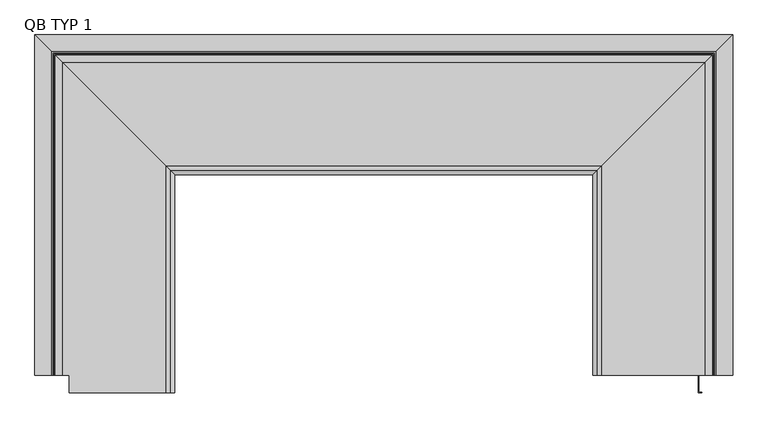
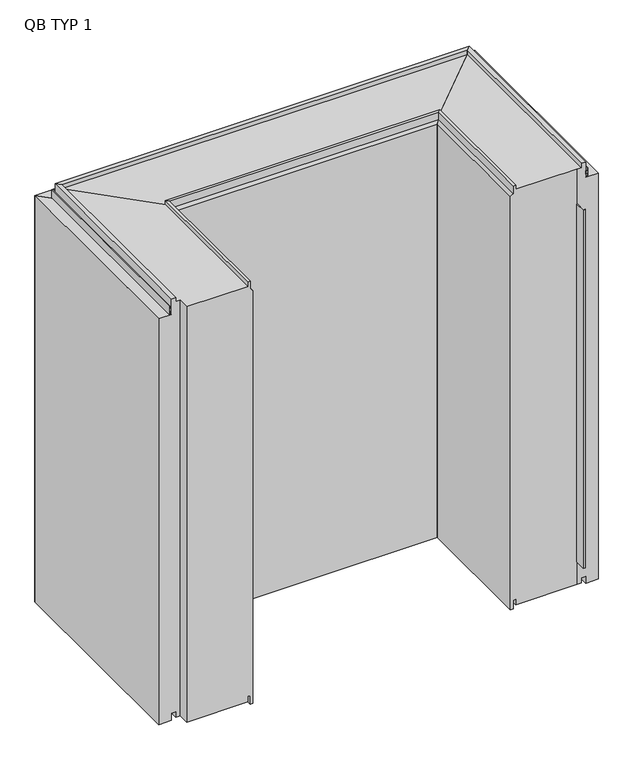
"""IFC4 building model written with IfcOpenShell, lengths in millimetres: plate geometry, TR_C_H_QBISS_U_Corner_Tr : QB TYP 1."""

from ifc_helpers import new_model, si_unit, frame, origin, place, context, project, spatial, polyline, outline, extrude, faceted_brep, source, transform, mapped, element, save


def qb_typ_1_6f92aae7(model_context):
    return source(origin(), model_context, "Body", "SolidModel", [
        faceted_brep([(-300.0, -512.4, -8.0), (-300.0, -512.4, 986.0), (-306.0, -512.4, 992.0), (-306.0, -512.4, 1010.0), (-312.0, -512.4, 1010.0), (-312.0, -512.4, 1000.0), (-451.0, -512.4, 1000.0), (-451.0, -512.4, 0.0), (-312.0, -512.4, 0.0), (-312.0, -512.4, 13.0), (-306.0, -512.4, 13.0), (-306.0, -512.4, -8.0), (-306.0, -194.0, -8.0), (-300.0, -200.0, -8.0), (-306.0, -194.0, 13.0), (-312.0, -188.0, 13.0), (-312.0, -188.0, 0.0), (-451.0, -487.3, 0.0), (-461.0, -487.3, 0.0), (-461.0, -39.0, 0.0), (-461.0, -487.3, 13.0), (-461.0, -39.0, 13.0), (-471.0, -487.3, 13.0), (-471.0, -29.0, 13.0), (-471.0, -487.3, -4.0), (-471.0, -29.0, -4.0), (-500.0, 0.0, -4.0), (-500.0, -487.3, -4.0), (-500.0, -487.3, 973.0), (-500.0, 0.0, 973.0), (-471.0, -487.3, 973.0), (-471.0, -29.0, 973.0), (-471.0, -487.3, 1010.0), (-471.0, -29.0, 1010.0), (-461.0, -487.3, 1010.0), (-461.0, -39.0, 1010.0), (-461.0, -487.3, 1000.0), (-461.0, -39.0, 1000.0), (-312.0, -188.0, 1000.0), (-451.0, -487.3, 1000.0), (-312.0, -188.0, 1010.0), (-306.0, -194.0, 1010.0), (-306.0, -194.0, 992.0), (-300.0, -200.0, 986.0)], [[[0, 1, 2, 3, 4, 5, 6, 7, 8, 9, 10, 11]], [[11, 12, 13, 0]], [[10, 14, 12, 11]], [[9, 15, 14, 10]], [[8, 16, 15, 9]], [[7, 17, 18, 19, 16, 8]], [[20, 21, 19, 18]], [[22, 23, 21, 20]], [[24, 25, 23, 22]], [[26, 25, 24, 27]], [[27, 28, 29, 26]], [[28, 30, 31, 29]], [[32, 33, 31, 30]], [[34, 35, 33, 32]], [[36, 37, 35, 34]], [[5, 38, 37, 36, 39, 6]], [[4, 40, 38, 5]], [[3, 41, 40, 4]], [[2, 42, 41, 3]], [[1, 43, 42, 2]], [[0, 13, 43, 1]], [[17, 7, 6, 39]], [[39, 36, 34, 32, 30, 28, 27, 24, 22, 20, 18, 17]], [[12, 14, 15, 16, 19, 21, 23, 25, 26, 29, 31, 33, 35, 37, 38, 40, 41, 42, 43, 13]]]),
        extrude(outline(polyline([(451.0, -512.5), (451.0, -487.3), (451.8261798, -487.3), (451.8261798, -511.7), (456.0, -511.7), (456.0, -512.5), (451.0, -512.5)])), frame((0.0, 0.0, 54.0), z_axis=(0.0, 0.0, 1.0), x_axis=(1.0, 0.0, 0.0)), (0.0, 0.0, 1.0), 862.0),
        faceted_brep([(300.0, -487.5, -8.0), (306.0, -487.5, -8.0), (306.0, -487.5, 13.0), (312.0, -487.5, 13.0), (312.0, -487.5, 0.0), (451.0, -487.5, 0.0), (451.0, -487.5, 1000.0), (312.0, -487.5, 1000.0), (312.0, -487.5, 1010.0), (306.0, -487.5, 1010.0), (306.0, -487.5, 992.0), (300.0, -487.5, 986.0), (300.0, -200.0, -8.0), (306.0, -194.0, -8.0), (306.0, -194.0, 13.0), (312.0, -188.0, 13.0), (312.0, -188.0, 0.0), (461.0, -39.0, 0.0), (461.0, -487.3, 0.0), (451.0, -487.3, 0.0), (461.0, -487.3, 13.0), (461.0, -39.0, 13.0), (471.0, -487.3, 13.0), (471.0, -29.0, 13.0), (471.0, -487.3, -4.0), (471.0, -29.0, -4.0), (500.0, 0.0, -4.0), (500.0, -487.3, -4.0), (500.0, 0.0, 973.0), (500.0, -487.3, 973.0), (471.0, -29.0, 973.0), (471.0, -487.3, 973.0), (471.0, -487.3, 1010.0), (471.0, -29.0, 1010.0), (461.0, -487.3, 1010.0), (461.0, -39.0, 1010.0), (461.0, -487.3, 1000.0), (461.0, -39.0, 1000.0), (451.0, -487.3, 1000.0), (312.0, -188.0, 1000.0), (312.0, -188.0, 1010.0), (306.0, -194.0, 1010.0), (306.0, -194.0, 992.0), (300.0, -200.0, 986.0)], [[[0, 1, 2, 3, 4, 5, 6, 7, 8, 9, 10, 11]], [[1, 0, 12, 13]], [[2, 1, 13, 14]], [[3, 2, 14, 15]], [[4, 3, 15, 16]], [[5, 4, 16, 17, 18, 19]], [[20, 18, 17, 21]], [[22, 20, 21, 23]], [[24, 22, 23, 25]], [[26, 27, 24, 25]], [[27, 26, 28, 29]], [[29, 28, 30, 31]], [[32, 31, 30, 33]], [[34, 32, 33, 35]], [[36, 34, 35, 37]], [[7, 6, 38, 36, 37, 39]], [[8, 7, 39, 40]], [[9, 8, 40, 41]], [[10, 9, 41, 42]], [[11, 10, 42, 43]], [[0, 11, 43, 12]], [[19, 38, 6, 5]], [[38, 19, 18, 20, 22, 24, 27, 29, 31, 32, 34, 36]], [[13, 12, 43, 42, 41, 40, 39, 37, 35, 33, 30, 28, 26, 25, 23, 21, 17, 16, 15, 14]]]),
        faceted_brep([(461.0, -39.0, 0.0), (312.0, -188.0, 0.0), (-312.0, -188.0, 0.0), (-461.0, -39.0, 0.0), (461.0, -39.0, 13.0), (-461.0, -39.0, 13.0), (471.0, -29.0, 13.0), (-471.0, -29.0, 13.0), (471.0, -29.0, -4.0), (-471.0, -29.0, -4.0), (-500.0, 0.0, -4.0), (500.0, 0.0, -4.0), (-500.0, 0.0, 973.0), (500.0, 0.0, 973.0), (-471.0, -29.0, 973.0), (471.0, -29.0, 973.0), (471.0, -29.0, 1010.0), (-471.0, -29.0, 1010.0), (461.0, -39.0, 1010.0), (-461.0, -39.0, 1010.0), (461.0, -39.0, 1000.0), (-461.0, -39.0, 1000.0), (312.0, -188.0, 1000.0), (-312.0, -188.0, 1000.0), (312.0, -188.0, 1010.0), (-312.0, -188.0, 1010.0), (306.0, -194.0, 1010.0), (-306.0, -194.0, 1010.0), (306.0, -194.0, 992.0), (-306.0, -194.0, 992.0), (300.0, -200.0, 986.0), (-300.0, -200.0, 986.0), (300.0, -200.0, -8.0), (-300.0, -200.0, -8.0), (306.0, -194.0, -8.0), (-306.0, -194.0, -8.0), (306.0, -194.0, 13.0), (-306.0, -194.0, 13.0), (312.0, -188.0, 13.0), (-312.0, -188.0, 13.0)], [[[0, 1, 2, 3]], [[4, 0, 3, 5]], [[6, 4, 5, 7]], [[8, 6, 7, 9]], [[10, 11, 8, 9]], [[11, 10, 12, 13]], [[13, 12, 14, 15]], [[16, 15, 14, 17]], [[18, 16, 17, 19]], [[20, 18, 19, 21]], [[22, 20, 21, 23]], [[24, 22, 23, 25]], [[26, 24, 25, 27]], [[28, 26, 27, 29]], [[30, 28, 29, 31]], [[32, 30, 31, 33]], [[34, 32, 33, 35]], [[36, 34, 35, 37]], [[38, 36, 37, 39]], [[1, 38, 39, 2]], [[1, 0, 4, 6, 8, 11, 13, 15, 16, 18, 20, 22, 24, 26, 28, 30, 32, 34, 36, 38]], [[3, 2, 39, 37, 35, 33, 31, 29, 27, 25, 23, 21, 19, 17, 14, 12, 10, 9, 7, 5]]]),
        faceted_brep([(476.0, -487.3, 994.5), (474.5001683, -487.3, 994.5), (474.5001683, -487.3, 987.7023593), (472.0001707, -487.3, 987.7023593), (472.0001707, -487.3, 988.5023593), (471.2001572, -487.3, 988.5023593), (471.2001572, -487.3, 980.5023028), (472.0001707, -487.3, 980.5023028), (472.0001707, -487.3, 981.3023028), (474.5001683, -487.3, 981.3023028), (474.5001683, -487.3, 974.5), (476.0, -487.3, 974.5), (-476.0, -487.3, 994.5), (-476.0, -487.3, 974.5), (-474.5001683, -487.3, 974.5), (-474.5001683, -487.3, 981.3023028), (-472.0001707, -487.3, 981.3023028), (-472.0001707, -487.3, 980.5023028), (-471.2001572, -487.3, 980.5023028), (-471.2001572, -487.3, 988.5023593), (-472.0001707, -487.3, 988.5023593), (-472.0001707, -487.3, 987.7023593), (-474.5001683, -487.3, 987.7023593), (-474.5001683, -487.3, 994.5), (476.0, -24.0, 994.5), (-476.0, -24.0, 994.5), (-474.5001683, -25.4998317, 994.5), (474.5001683, -25.4998317, 994.5), (474.5001683, -25.4998317, 987.7023593), (-474.5001683, -25.4998317, 987.7023593), (-472.0001707, -27.9998293, 987.7023593), (472.0001707, -27.9998293, 987.7023593), (472.0001707, -27.9998293, 988.5023593), (-472.0001707, -27.9998293, 988.5023593), (-471.2001572, -28.7998428, 988.5023593), (471.2001572, -28.7998428, 988.5023593), (471.2001572, -28.7998428, 980.5023028), (-471.2001572, -28.7998428, 980.5023028), (-472.0001707, -27.9998293, 980.5023028), (472.0001707, -27.9998293, 980.5023028), (472.0001707, -27.9998293, 981.3023028), (-472.0001707, -27.9998293, 981.3023028), (-474.5001683, -25.4998317, 981.3023028), (474.5001683, -25.4998317, 981.3023028), (474.5001683, -25.4998317, 974.5), (-474.5001683, -25.4998317, 974.5), (-476.0, -24.0, 974.5), (476.0, -24.0, 974.5)], [[[0, 1, 2, 3, 4, 5, 6, 7, 8, 9, 10, 11]], [[12, 13, 14, 15, 16, 17, 18, 19, 20, 21, 22, 23]], [[1, 0, 24, 25, 12, 23, 26, 27]], [[2, 1, 27, 28]], [[3, 2, 28, 29, 22, 21, 30, 31]], [[4, 3, 31, 32]], [[5, 4, 32, 33, 20, 19, 34, 35]], [[6, 5, 35, 36]], [[7, 6, 36, 37, 18, 17, 38, 39]], [[8, 7, 39, 40]], [[9, 8, 40, 41, 16, 15, 42, 43]], [[10, 9, 43, 44]], [[11, 10, 44, 45, 14, 13, 46, 47]], [[0, 11, 47, 24]], [[28, 27, 26, 29]], [[32, 31, 30, 33]], [[36, 35, 34, 37]], [[40, 39, 38, 41]], [[44, 43, 42, 45]], [[24, 47, 46, 25]], [[29, 26, 23, 22]], [[33, 30, 21, 20]], [[37, 34, 19, 18]], [[41, 38, 17, 16]], [[45, 42, 15, 14]], [[25, 46, 13, 12]]]),
    ])


if __name__ == "__main__":
    model = new_model("IFC4")
    model_context = context("Model", 3, world=origin())
    ifc_project = project(units=[si_unit("LENGTHUNIT", "METRE", prefix="MILLI")], contexts=[model_context])
    site = spatial("IfcSite", under=ifc_project)
    building = spatial("IfcBuilding", under=site)
    placement = place(None, origin())
    qb_typ_1_shape = qb_typ_1_6f92aae7(model_context)
    element("IfcPlate", 1, ObjectType="TR_C_H_QBISS_U_Corner_Tr : QB TYP 1", at=placement, inside=building, context=model_context, shape_type="MappedRepresentation", body=[
        mapped(qb_typ_1_shape, transform((0.0, 0.0, 0.0), x_axis=(1.0, 0.0, 0.0), y_axis=(0.0, 1.0, 0.0), z_axis=(0.0, 0.0, 1.0))),
    ])
    save(model, "model.ifc")
